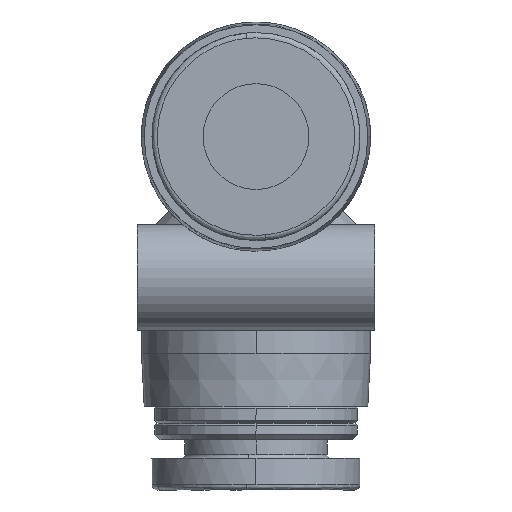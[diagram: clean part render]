
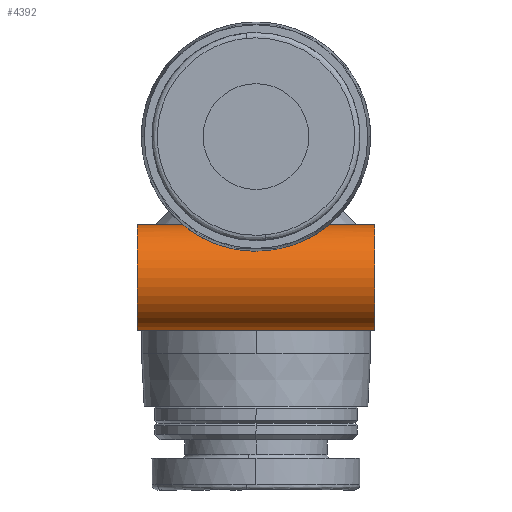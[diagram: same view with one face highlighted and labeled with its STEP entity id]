
A CAD part, left-side view. The second image highlights one B-rep face of the part: STEP entity #4392.
In plain terms, the highlighted cylindrical face has radius 3 mm (diameter 6 mm), a partial arc.
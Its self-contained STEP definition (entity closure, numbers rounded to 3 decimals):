
#225 = AXIS2_PLACEMENT_3D ( 'NONE', #1965, #1972, #1997 ) ;
#420 = VERTEX_POINT ( 'NONE', #3289 ) ;
#588 = DIRECTION ( 'NONE',  ( 0., 0., 1. ) ) ;
#722 = VERTEX_POINT ( 'NONE', #2696 ) ;
#843 = VERTEX_POINT ( 'NONE', #4445 ) ;
#1130 = VERTEX_POINT ( 'NONE', #2151 ) ;
#1144 = ORIENTED_EDGE ( 'NONE', *, *, #3664, .F. ) ;
#1170 = FACE_OUTER_BOUND ( 'NONE', #4212, .T. ) ;
#1283 = CIRCLE ( 'NONE', #3405, 3. ) ;
#1372 = LINE ( 'NONE', #3428, #2500 ) ;
#1518 = AXIS2_PLACEMENT_3D ( 'NONE', #4228, #4288, #4244 ) ;
#1627 = CYLINDRICAL_SURFACE ( 'NONE', #1518, 3. ) ;
#1833 = VERTEX_POINT ( 'NONE', #3012 ) ;
#1838 = B_SPLINE_CURVE_WITH_KNOTS ( 'NONE', 3,
 ( #3377, #3355, #3575, #3587, #3605, #3618, #3625, #3635, #3644, #3655, #3657, #3665, #3672, #3692, #3696, #3737 ),
 .UNSPECIFIED., .F., .F.,
 ( 4, 2, 2, 2, 2, 2, 2, 4 ),
 ( 0.003, 0.004, 0.004, 0.005, 0.006, 0.006, 0.007, 0.009 ),
 .UNSPECIFIED. ) ;
#1886 = ORIENTED_EDGE ( 'NONE', *, *, #2643, .T. ) ;
#1915 = CIRCLE ( 'NONE', #225, 3. ) ;
#1952 = ORIENTED_EDGE ( 'NONE', *, *, #3520, .T. ) ;
#1953 = ORIENTED_EDGE ( 'NONE', *, *, #3311, .F. ) ;
#1958 = ORIENTED_EDGE ( 'NONE', *, *, #2625, .F. ) ;
#1965 = CARTESIAN_POINT ( 'NONE',  ( -8., 6.75, -8. ) ) ;
#1972 = DIRECTION ( 'NONE',  ( 0., -1., 0. ) ) ;
#1997 = DIRECTION ( 'NONE',  ( 0., 0., 1. ) ) ;
#2001 = ORIENTED_EDGE ( 'NONE', *, *, #3539, .T. ) ;
#2133 = ORIENTED_EDGE ( 'NONE', *, *, #2404, .T. ) ;
#2151 = CARTESIAN_POINT ( 'NONE',  ( -8., 4.153, -5. ) ) ;
#2248 = CARTESIAN_POINT ( 'NONE',  ( -8., -6.75, -11. ) ) ;
#2400 = DIRECTION ( 'NONE',  ( 0., 1., 0. ) ) ;
#2404 = EDGE_CURVE ( 'NONE', #420, #722, #1915, .T. ) ;
#2421 = CARTESIAN_POINT ( 'NONE',  ( -8., -6.75, -8. ) ) ;
#2494 = VERTEX_POINT ( 'NONE', #2248 ) ;
#2500 = VECTOR ( 'NONE', #2879, 1000. ) ;
#2594 = DIRECTION ( 'NONE',  ( 0., 1., 0. ) ) ;
#2598 = CARTESIAN_POINT ( 'NONE',  ( -8., -6.75, -11. ) ) ;
#2625 = EDGE_CURVE ( 'NONE', #1130, #843, #1838, .T. ) ;
#2643 = EDGE_CURVE ( 'NONE', #2494, #1833, #1283, .T. ) ;
#2696 = CARTESIAN_POINT ( 'NONE',  ( -8., 6.75, -11. ) ) ;
#2698 = CARTESIAN_POINT ( 'NONE',  ( -8., -4.153, -5. ) ) ;
#2866 = VECTOR ( 'NONE', #3420, 1000. ) ;
#2879 = DIRECTION ( 'NONE',  ( 0., 1., 0. ) ) ;
#2957 = CARTESIAN_POINT ( 'NONE',  ( -8., -6.75, -5. ) ) ;
#3012 = CARTESIAN_POINT ( 'NONE',  ( -8., -6.75, -5. ) ) ;
#3289 = CARTESIAN_POINT ( 'NONE',  ( -8., 6.75, -5. ) ) ;
#3290 = B_SPLINE_CURVE_WITH_KNOTS ( 'NONE', 3,
 ( #4276, #4280, #4264, #4245, #4238, #4230, #4226, #4218, #4216, #4192, #4184, #4180, #4174, #4147, #4137, #4126 ),
 .UNSPECIFIED., .F., .F.,
 ( 4, 2, 2, 2, 2, 2, 2, 4 ),
 ( 0.009, 0.01, 0.011, 0.011, 0.012, 0.013, 0.014, 0.014 ),
 .UNSPECIFIED. ) ;
#3311 = EDGE_CURVE ( 'NONE', #843, #3630, #3290, .T. ) ;
#3355 = CARTESIAN_POINT ( 'NONE',  ( -8.24, 4.153, -5. ) ) ;
#3377 = CARTESIAN_POINT ( 'NONE',  ( -8., 4.153, -5. ) ) ;
#3405 = AXIS2_PLACEMENT_3D ( 'NONE', #2421, #2400, #588 ) ;
#3420 = DIRECTION ( 'NONE',  ( 0., 1., 0. ) ) ;
#3428 = CARTESIAN_POINT ( 'NONE',  ( -8., -6.75, -5. ) ) ;
#3520 = EDGE_CURVE ( 'NONE', #1833, #3630, #4267, .T. ) ;
#3539 = EDGE_CURVE ( 'NONE', #1130, #420, #1372, .T. ) ;
#3575 = CARTESIAN_POINT ( 'NONE',  ( -8.483, 4.118, -5.03 ) ) ;
#3587 = CARTESIAN_POINT ( 'NONE',  ( -8.931, 3.981, -5.139 ) ) ;
#3605 = CARTESIAN_POINT ( 'NONE',  ( -9.141, 3.879, -5.218 ) ) ;
#3618 = CARTESIAN_POINT ( 'NONE',  ( -9.508, 3.624, -5.399 ) ) ;
#3625 = CARTESIAN_POINT ( 'NONE',  ( -9.668, 3.469, -5.501 ) ) ;
#3630 = VERTEX_POINT ( 'NONE', #2698 ) ;
#3635 = CARTESIAN_POINT ( 'NONE',  ( -9.936, 3.126, -5.702 ) ) ;
#3644 = CARTESIAN_POINT ( 'NONE',  ( -10.048, 2.934, -5.804 ) ) ;
#3655 = CARTESIAN_POINT ( 'NONE',  ( -10.232, 2.531, -5.991 ) ) ;
#3657 = CARTESIAN_POINT ( 'NONE',  ( -10.304, 2.32, -6.076 ) ) ;
#3664 = EDGE_CURVE ( 'NONE', #2494, #722, #4376, .T. ) ;
#3665 = CARTESIAN_POINT ( 'NONE',  ( -10.421, 1.88, -6.226 ) ) ;
#3672 = CARTESIAN_POINT ( 'NONE',  ( -10.467, 1.65, -6.291 ) ) ;
#3692 = CARTESIAN_POINT ( 'NONE',  ( -10.57, 0.956, -6.447 ) ) ;
#3696 = CARTESIAN_POINT ( 'NONE',  ( -10.598, 0.483, -6.5 ) ) ;
#3737 = CARTESIAN_POINT ( 'NONE',  ( -10.598, 0., -6.5 ) ) ;
#3938 = VECTOR ( 'NONE', #2594, 1000. ) ;
#4126 = CARTESIAN_POINT ( 'NONE',  ( -8., -4.153, -5. ) ) ;
#4137 = CARTESIAN_POINT ( 'NONE',  ( -8.24, -4.153, -5. ) ) ;
#4147 = CARTESIAN_POINT ( 'NONE',  ( -8.483, -4.117, -5.03 ) ) ;
#4174 = CARTESIAN_POINT ( 'NONE',  ( -8.929, -3.982, -5.138 ) ) ;
#4180 = CARTESIAN_POINT ( 'NONE',  ( -9.139, -3.88, -5.217 ) ) ;
#4184 = CARTESIAN_POINT ( 'NONE',  ( -9.505, -3.626, -5.397 ) ) ;
#4192 = CARTESIAN_POINT ( 'NONE',  ( -9.666, -3.471, -5.499 ) ) ;
#4212 = EDGE_LOOP ( 'NONE', ( #1144, #1886, #1952, #1953, #1958, #2001, #2133 ) ) ;
#4216 = CARTESIAN_POINT ( 'NONE',  ( -9.935, -3.129, -5.701 ) ) ;
#4218 = CARTESIAN_POINT ( 'NONE',  ( -10.045, -2.94, -5.801 ) ) ;
#4226 = CARTESIAN_POINT ( 'NONE',  ( -10.231, -2.534, -5.99 ) ) ;
#4228 = CARTESIAN_POINT ( 'NONE',  ( -8., -6.75, -8. ) ) ;
#4230 = CARTESIAN_POINT ( 'NONE',  ( -10.303, -2.323, -6.075 ) ) ;
#4238 = CARTESIAN_POINT ( 'NONE',  ( -10.421, -1.884, -6.225 ) ) ;
#4244 = DIRECTION ( 'NONE',  ( 0., 0., 1. ) ) ;
#4245 = CARTESIAN_POINT ( 'NONE',  ( -10.466, -1.656, -6.29 ) ) ;
#4264 = CARTESIAN_POINT ( 'NONE',  ( -10.57, -0.958, -6.447 ) ) ;
#4267 = LINE ( 'NONE', #2957, #2866 ) ;
#4276 = CARTESIAN_POINT ( 'NONE',  ( -10.598, 0., -6.5 ) ) ;
#4280 = CARTESIAN_POINT ( 'NONE',  ( -10.598, -0.483, -6.5 ) ) ;
#4288 = DIRECTION ( 'NONE',  ( 0., 1., 0. ) ) ;
#4376 = LINE ( 'NONE', #2598, #3938 ) ;
#4392 = ADVANCED_FACE ( '37', ( #1170 ), #1627, .T. ) ;
#4445 = CARTESIAN_POINT ( 'NONE',  ( -10.598, 0., -6.5 ) ) ;
